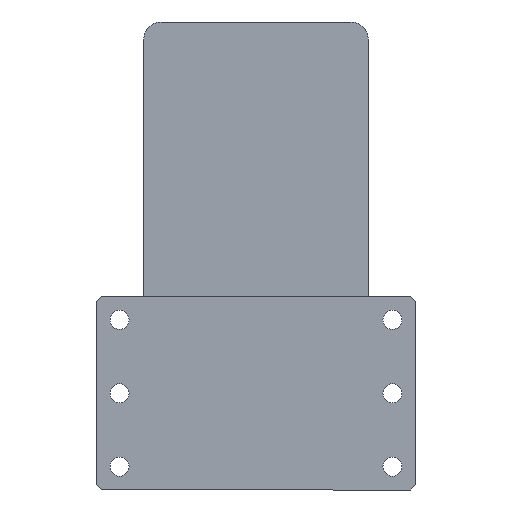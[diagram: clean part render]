
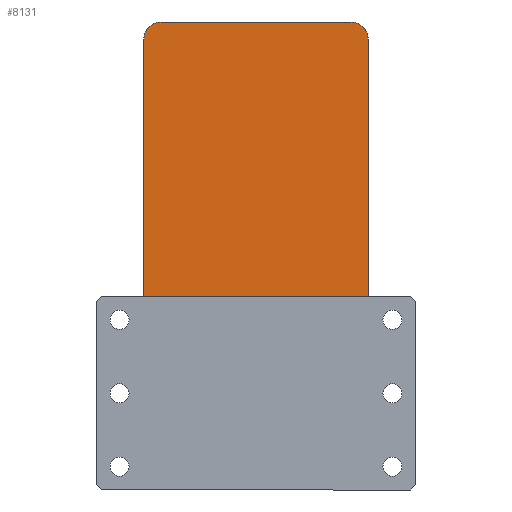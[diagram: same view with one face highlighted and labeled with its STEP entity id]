
A CAD part, left-side view. The second image highlights one B-rep face of the part: STEP entity #8131.
In plain terms, the highlighted planar face has unit normal (-1, 0, 0) as drawn and (0, 0, 1) by its records, which use the part's own axes.
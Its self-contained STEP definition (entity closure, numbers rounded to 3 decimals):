
#100 = DIRECTION ( 'NONE',  ( 1., 0., 0. ) ) ;
#197 = ORIENTED_EDGE ( 'NONE', *, *, #15311, .T. ) ;
#287 = DIRECTION ( 'NONE',  ( 0., 0., 1. ) ) ;
#612 = VERTEX_POINT ( 'NONE', #19424 ) ;
#795 = CARTESIAN_POINT ( 'NONE',  ( -65., -135., 105. ) ) ;
#1641 = VERTEX_POINT ( 'NONE', #8534 ) ;
#1771 = CARTESIAN_POINT ( 'NONE',  ( 65., 125., 105. ) ) ;
#2285 = EDGE_CURVE ( 'NONE', #612, #1641, #5110, .T. ) ;
#2906 = ORIENTED_EDGE ( 'NONE', *, *, #18272, .T. ) ;
#3431 = VERTEX_POINT ( 'NONE', #1771 ) ;
#3546 = ORIENTED_EDGE ( 'NONE', *, *, #11306, .T. ) ;
#3784 = DIRECTION ( 'NONE',  ( 0., -1., 0. ) ) ;
#3789 = CARTESIAN_POINT ( 'NONE',  ( -65., 135., 105. ) ) ;
#4523 = CARTESIAN_POINT ( 'NONE',  ( 65., 135., 105. ) ) ;
#4812 = VERTEX_POINT ( 'NONE', #6214 ) ;
#5106 = ORIENTED_EDGE ( 'NONE', *, *, #2285, .T. ) ;
#5110 = CIRCLE ( 'NONE', #16650, 10. ) ;
#5416 = VECTOR ( 'NONE', #100, 1000. ) ;
#5422 = ORIENTED_EDGE ( 'NONE', *, *, #19636, .T. ) ;
#5584 = LINE ( 'NONE', #795, #5416 ) ;
#6214 = CARTESIAN_POINT ( 'NONE',  ( -55., 135., 105. ) ) ;
#6385 = AXIS2_PLACEMENT_3D ( 'NONE', #21189, #20901, #20823 ) ;
#6411 = AXIS2_PLACEMENT_3D ( 'NONE', #11527, #11420, #11402 ) ;
#6644 = ORIENTED_EDGE ( 'NONE', *, *, #21875, .T. ) ;
#8131 = ADVANCED_FACE ( 'NONE', ( #12009 ), #22407, .T. ) ;
#8223 = EDGE_LOOP ( 'NONE', ( #3546, #5106, #2906, #197, #21704, #5422, #10255, #6644 ) ) ;
#8534 = CARTESIAN_POINT ( 'NONE',  ( 65., -125., 105. ) ) ;
#9152 = VERTEX_POINT ( 'NONE', #11772 ) ;
#9200 = EDGE_CURVE ( 'NONE', #9152, #4812, #10204, .T. ) ;
#9920 = VECTOR ( 'NONE', #11593, 1000. ) ;
#10204 = LINE ( 'NONE', #11467, #9920 ) ;
#10255 = ORIENTED_EDGE ( 'NONE', *, *, #14420, .T. ) ;
#10432 = LINE ( 'NONE', #3789, #15613 ) ;
#10552 = CIRCLE ( 'NONE', #13121, 10. ) ;
#10626 = DIRECTION ( 'NONE',  ( 0., 0., 1. ) ) ;
#11231 = VECTOR ( 'NONE', #18777, 1000. ) ;
#11306 = EDGE_CURVE ( 'NONE', #13299, #612, #5584, .T. ) ;
#11402 = DIRECTION ( 'NONE',  ( 1., 0., 0. ) ) ;
#11420 = DIRECTION ( 'NONE',  ( 0., 0., 1. ) ) ;
#11467 = CARTESIAN_POINT ( 'NONE',  ( -65., 135., 105. ) ) ;
#11527 = CARTESIAN_POINT ( 'NONE',  ( 55., 125., 105. ) ) ;
#11593 = DIRECTION ( 'NONE',  ( -1., 0., 0. ) ) ;
#11772 = CARTESIAN_POINT ( 'NONE',  ( 55., 135., 105. ) ) ;
#11951 = CARTESIAN_POINT ( 'NONE',  ( -55., -125., 105. ) ) ;
#12009 = FACE_OUTER_BOUND ( 'NONE', #8223, .T. ) ;
#12280 = AXIS2_PLACEMENT_3D ( 'NONE', #20667, #10626, #22385 ) ;
#13121 = AXIS2_PLACEMENT_3D ( 'NONE', #11951, #287, #13741 ) ;
#13299 = VERTEX_POINT ( 'NONE', #14893 ) ;
#13741 = DIRECTION ( 'NONE',  ( 1., 0., 0. ) ) ;
#14420 = EDGE_CURVE ( 'NONE', #22798, #22843, #10432, .T. ) ;
#14893 = CARTESIAN_POINT ( 'NONE',  ( -55., -135., 105. ) ) ;
#15311 = EDGE_CURVE ( 'NONE', #3431, #9152, #18384, .T. ) ;
#15613 = VECTOR ( 'NONE', #3784, 1000. ) ;
#16650 = AXIS2_PLACEMENT_3D ( 'NONE', #19453, #19407, #19388 ) ;
#18272 = EDGE_CURVE ( 'NONE', #1641, #3431, #20110, .T. ) ;
#18384 = CIRCLE ( 'NONE', #6411, 10. ) ;
#18777 = DIRECTION ( 'NONE',  ( 0., 1., 0. ) ) ;
#19360 = CARTESIAN_POINT ( 'NONE',  ( -65., 125., 105. ) ) ;
#19388 = DIRECTION ( 'NONE',  ( 1., 0., 0. ) ) ;
#19407 = DIRECTION ( 'NONE',  ( 0., 0., 1. ) ) ;
#19424 = CARTESIAN_POINT ( 'NONE',  ( 55., -135., 105. ) ) ;
#19453 = CARTESIAN_POINT ( 'NONE',  ( 55., -125., 105. ) ) ;
#19636 = EDGE_CURVE ( 'NONE', #4812, #22798, #21086, .T. ) ;
#20110 = LINE ( 'NONE', #4523, #11231 ) ;
#20667 = CARTESIAN_POINT ( 'NONE',  ( -55., 125., 105. ) ) ;
#20823 = DIRECTION ( 'NONE',  ( 1., 0., 0. ) ) ;
#20901 = DIRECTION ( 'NONE',  ( 0., 0., 1. ) ) ;
#21086 = CIRCLE ( 'NONE', #12280, 10. ) ;
#21189 = CARTESIAN_POINT ( 'NONE',  ( 0., 0., 105. ) ) ;
#21430 = CARTESIAN_POINT ( 'NONE',  ( -65., -125., 105. ) ) ;
#21704 = ORIENTED_EDGE ( 'NONE', *, *, #9200, .T. ) ;
#21875 = EDGE_CURVE ( 'NONE', #22843, #13299, #10552, .T. ) ;
#22385 = DIRECTION ( 'NONE',  ( 1., 0., 0. ) ) ;
#22407 = PLANE ( 'NONE',  #6385 ) ;
#22798 = VERTEX_POINT ( 'NONE', #19360 ) ;
#22843 = VERTEX_POINT ( 'NONE', #21430 ) ;
